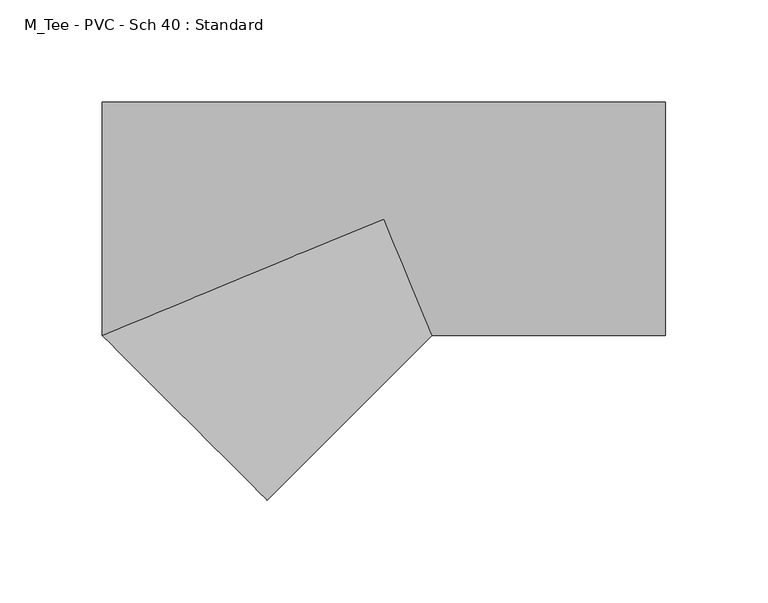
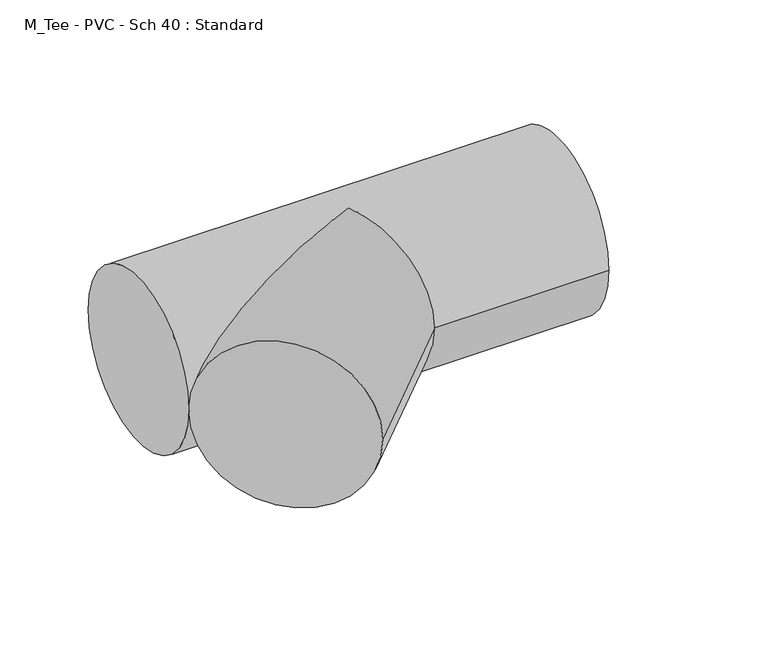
"""IFC4 building model written with IfcOpenShell, lengths in millimetres: pipe fitting geometry, M_Tee - PVC - Sch 40 : Standard."""

from ifc_helpers import new_model, si_unit, frame, origin, place, context, project, spatial, circle_curve, ellipse_curve, source, transform, mapped, element, save
from ifc_brep_helpers import plane_surface, cylinder_surface, advanced_brep


def m_tee_pvc_sch_40_standard_4c5b037c(model_context):
    return source(origin(), model_context, "Body", "AdvancedBrep", [
        advanced_brep(
        [(-137.4272043, -56.9449219, 0.0), (-137.4272043, 56.9449219, 0.0), (137.4272043, -56.9449219, 0.0), (137.4272043, 56.9449219, 0.0), (0.0, 0.0, 56.9449219), (23.5959404, -56.9449219, 0.0), (0.0, 0.0, -56.9449219), (-56.8742098, -137.4564836, 0.0)],
        [
            (0, 1, circle_curve(frame((-137.4272043, 0.0, 0.0), z_axis=(-1.0, 0.0, 0.0), x_axis=(0.0, 1.0, 0.0)), 56.9449219)),
            (1, 0, circle_curve(frame((-137.4272043, 0.0, 0.0), z_axis=(-1.0, 0.0, 0.0), x_axis=(0.0, 1.0, 0.0)), 56.9449219)),
            (2, 3, circle_curve(frame((137.4272043, 0.0, 0.0), z_axis=(1.0, 0.0, 0.0), x_axis=(0.0, 1.0, 0.0)), 56.9449219)),
            (3, 2, circle_curve(frame((137.4272043, 0.0, 0.0), z_axis=(1.0, 0.0, 0.0), x_axis=(0.0, 1.0, 0.0)), 56.9449219)),
            (0, 4, ellipse_curve(frame((0.0, 0.0, 0.0), z_axis=(-0.3828022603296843, 0.9238303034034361, 0.0), x_axis=(-0.9238303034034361, -0.3828022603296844, 0.0)), 148.7580607, 56.9449219)),
            (4, 5, ellipse_curve(frame((0.0, 0.0, 0.0), z_axis=(0.9238303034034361, 0.38280226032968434, 0.0), x_axis=(-0.38280226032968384, 0.9238303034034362, 0.0)), 61.6400238, 56.9449219)),
            (5, 2),
            (3, 1),
            (5, 6, ellipse_curve(frame((0.0, 0.0, 0.0), z_axis=(0.9238303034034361, 0.38280226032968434, 0.0), x_axis=(-0.38280226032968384, 0.9238303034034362, 0.0)), 61.6400238, 56.9449219)),
            (6, 0, ellipse_curve(frame((0.0, 0.0, 0.0), z_axis=(-0.3828022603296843, 0.9238303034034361, 0.0), x_axis=(-0.9238303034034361, -0.3828022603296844, 0.0)), 148.7580607, 56.9449219)),
            (0, 7, circle_curve(frame((-97.150707, -97.2007027, 0.0), z_axis=(-0.706924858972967, -0.707288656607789, 0.0), x_axis=(0.707288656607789, -0.706924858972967, 0.0)), 56.9449219)),
            (7, 0, circle_curve(frame((-97.150707, -97.2007027, 0.0), z_axis=(-0.706924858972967, -0.707288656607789, 0.0), x_axis=(0.707288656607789, -0.706924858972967, 0.0)), 56.9449219)),
            (7, 5),
        ],
        [
            plane_surface(frame((-137.4272043, 0.0, 0.0), z_axis=(-1.0, 0.0, 0.0), x_axis=(0.0, 0.0, 1.0))),
            plane_surface(frame((137.4272043, 0.0, 0.0), z_axis=(1.0, 0.0, 0.0), x_axis=(0.0, 0.0, 1.0))),
            cylinder_surface(frame((-137.4272043, 0.0, 0.0), z_axis=(-1.0, 0.0, 0.0), x_axis=(0.0, 1.0, 0.0)), 56.9449219),
            plane_surface(frame((-97.150707, -97.2007027, 0.0), z_axis=(-0.706924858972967, -0.707288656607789, 0.0), x_axis=(0.0, 0.0, 1.0))),
            cylinder_surface(frame((0.0, 0.0, 0.0), z_axis=(0.706924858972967, 0.707288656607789, 0.0), x_axis=(0.707288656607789, -0.706924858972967, 0.0)), 56.9449219),
        ],
        [
            (0, [[1, 2]]),
            (1, [[3, 4]]),
            (2, [[-1, 5, 6, 7, -4, 8]]),
            (2, [[-2, -8, -3, -7, 9, 10]]),
            (3, [[11, 12]]),
            (4, [[-12, 13, -6, -5]]),
            (4, [[-11, -10, -9, -13]]),
        ],
    ),
    ])


if __name__ == "__main__":
    model = new_model("IFC4")
    model_context = context("Model", 3, world=origin())
    ifc_project = project(units=[si_unit("LENGTHUNIT", "METRE", prefix="MILLI")], contexts=[model_context])
    site = spatial("IfcSite", under=ifc_project)
    building = spatial("IfcBuilding", under=site)
    placement = place(None, origin())
    m_tee_pvc_sch_40_standard_shape = m_tee_pvc_sch_40_standard_4c5b037c(model_context)
    element("IfcPipeFitting", 1, ObjectType="M_Tee - PVC - Sch 40 : Standard", at=placement, inside=building, context=model_context, shape_type="MappedRepresentation", body=[
        mapped(m_tee_pvc_sch_40_standard_shape, transform((0.0, 0.0, 0.0), x_axis=(1.0, 0.0, 0.0), y_axis=(0.0, 1.0, 0.0), z_axis=(0.0, 0.0, 1.0))),
    ])
    save(model, "model.ifc")
